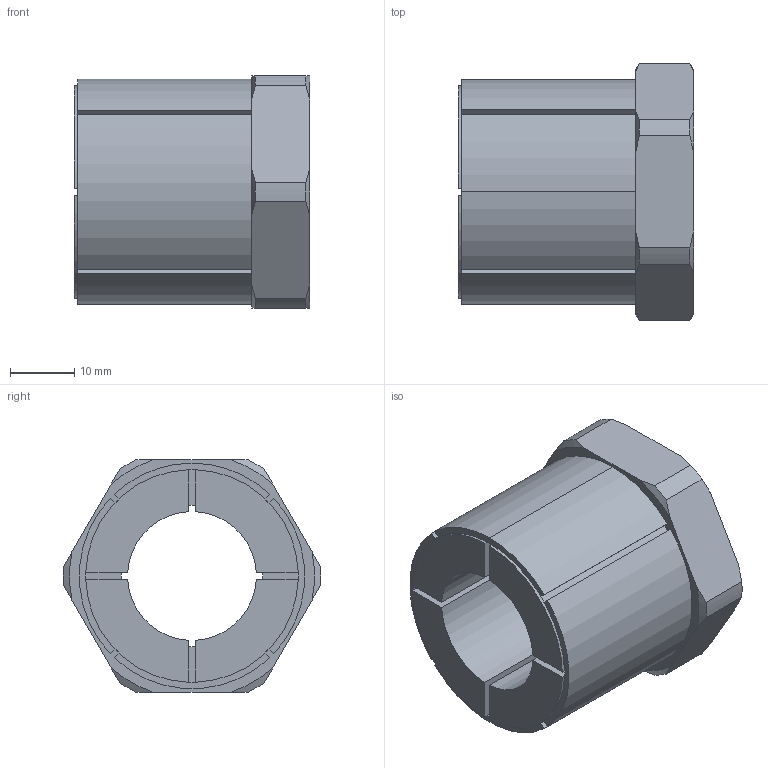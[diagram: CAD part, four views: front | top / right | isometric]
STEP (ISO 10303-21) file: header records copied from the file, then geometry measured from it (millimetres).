
FILE_DESCRIPTION (( 'STEP AP203' ), '1' );
FILE_NAME ('KBS 58 - 20 x 35.STEP', '2015-07-05T19:57:24', ( '' ), ( '' ), 'SwSTEP 2.0', 'SolidWorks 2010', '' );
FILE_SCHEMA (( 'CONFIG_CONTROL_DESIGN' ));
Length unit declared in the file: millimetre
Products named in the file (1): KBS 58 - 20 x 35
Bounding box: 36.5 x 39.99 x 36 mm (x, y, z)
Volume: 23886.3 mm3; surface area: 10070.3 mm2
Topology: 1 solids, 1 shells, 79 faces, 220 edges, 144 vertices
Faces by surface type: plane 37, cylinder 26, cone 16
Entity records: 2687 total; most frequent: CARTESIAN_POINT 564, ORIENTED_EDGE 440, DIRECTION 428, EDGE_CURVE 220, AXIS2_PLACEMENT_3D 160, VERTEX_POINT 144, VECTOR 108, LINE 108
